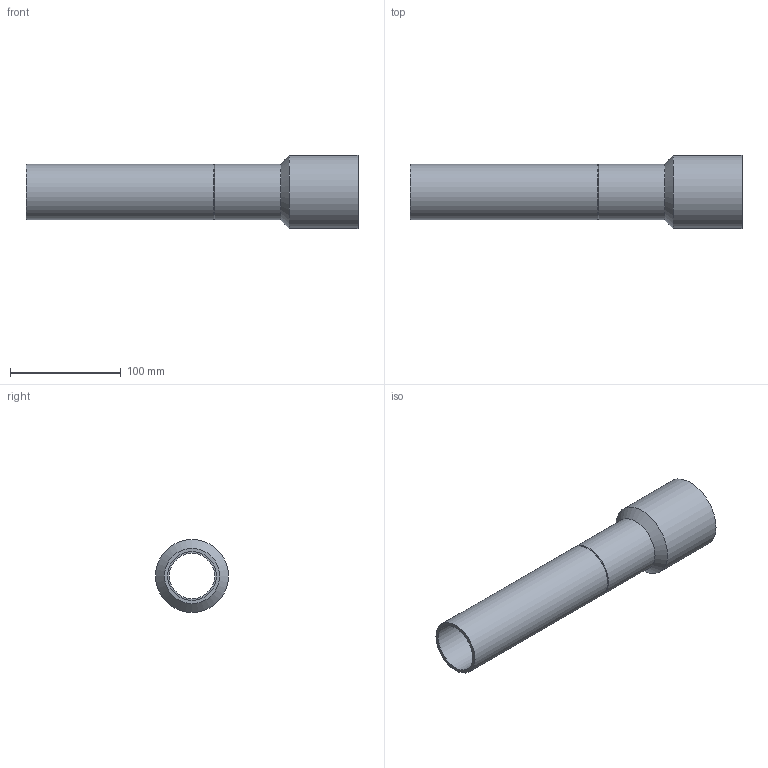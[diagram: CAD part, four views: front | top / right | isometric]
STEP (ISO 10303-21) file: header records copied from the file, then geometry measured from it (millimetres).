
FILE_DESCRIPTION(/* description */ (''),/* implementation_level */ '2;1');
FILE_NAME(/* name */ 'Z:\Geberit\Export\NewStep\152651.stp',/* time_stamp */ '2014-03-31T08:23:11+02:00',/* author */ ('nelson'),/* organization */ (''),/* preprocessor_version */ 'ST-DEVELOPER v15.2',/* originating_system */ 'Autodesk Inventor 2014',/* authorisation */ '');
FILE_SCHEMA (('AUTOMOTIVE_DESIGN { 1 0 10303 214 3 1 1 }'));
Length unit declared in the file: millimetre
Products named in the file (1): 152651
Bounding box: 300 x 66 x 66 mm (x, y, z)
Volume: 145528.8 mm3; surface area: 97641.7 mm2
Topology: 1 solids, 1 shells, 13 faces, 23 edges, 13 vertices
Faces by surface type: cylinder 6, cone 4, plane 3
Full cylindrical faces by diameter (mm): 41 x1, 44 x1, 50 x2, 60 x1, 66 x1
Entity records: 289 total; most frequent: DIRECTION 54, CARTESIAN_POINT 40, AXIS2_PLACEMENT_3D 27, EDGE_LOOP 26, ORIENTED_EDGE 26, FACE_BOUND 14, CIRCLE 13, VERTEX_POINT 13
